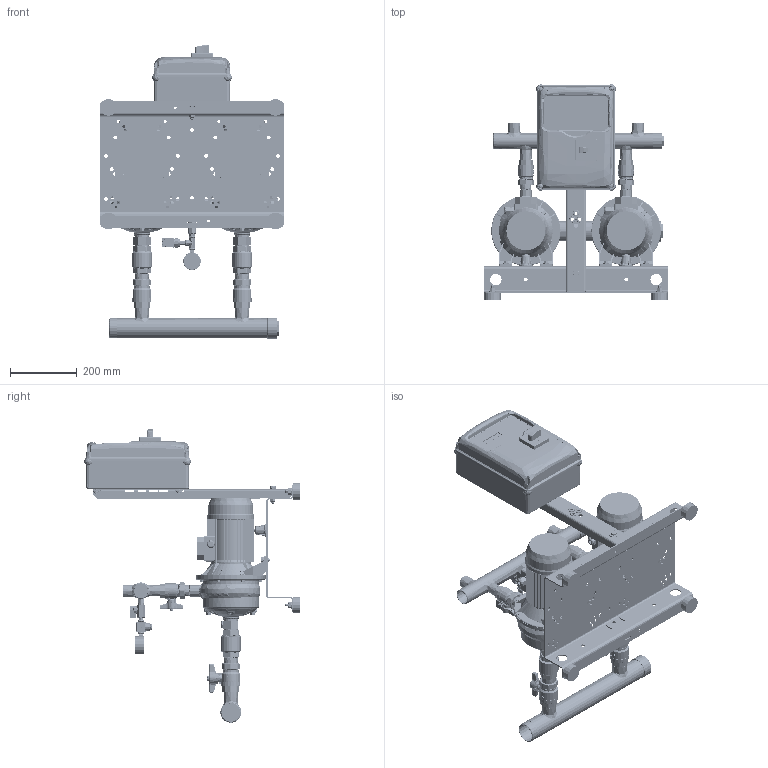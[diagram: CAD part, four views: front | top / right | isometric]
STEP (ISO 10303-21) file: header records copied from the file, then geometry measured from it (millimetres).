
FILE_DESCRIPTION((''),'2;1');
FILE_NAME('2GP_2CDX_70-12_REV5_ASM','2025-02-04T15:45:11',('Utente'),('"Ebara Pumps Europe S.p.A"'),'CREO PARAMETRIC BY PTC INC, 2022124','CREO PARAMETRIC BY PTC INC, 2022124','');
FILE_SCHEMA(('AUTOMOTIVE_DESIGN { 1 0 10303 214 1 1 1 1 }'));
Products named in the file (40): 62508_275562936; CALOTTA_F_A304_DN50_369800820; VAL_INT_MF-B_OTN_CIM346_DN32; VAL_INT_M-F-3_OTN_CIM346_DN32_ASM; VAL-NR-FF-OTN-CIM30-DN32; VAL_NR_F-F_OTN_CIM30_DN32_ASM; NIPPLO-ALIM_OT_DN32_361910051; TAPPO_M_OT_1-2_380000878; 3IEP_2CDX_70-12_IE3; EP_2CDX_70-12_ASM; VAL_INT_MF-B_OTN_CIM346_DN25; VAL_INT_M-F-3_OTN_CIM346_DN25_ASM; RONDEL-P_FE_ZN_UNI6592_M8; DADO_AUTOAGG_M8_ESAG; VITI_TE_ISO4017_M8_L20; 62510_275562939; CALOTTA_F_A304_DN40_369800819; TAPPO-SALVAFIL_D31; VAL_INT_MF_OTN_CIM012_DN8; NIPPLO_OTG_8_380000861; RACC-T_OTG_DN8_380000880; MAN_RAD_D50_10BAR_361600160; BASE_2GP_I300-B300_DNRV; MONTANTE_H600_271472877; PIEDINO_CIL_369650010; RONDEL-P_FE_ZN_UNI6592_M10; DADI_NORM_ISO4032_FE_ZN_M10; RONDEL-P_ZN_UNI6593_M10X30X2-5; VITI_TE_ISO4017_M10_L45; TRAVERSO_MONT_L200_271472882; RONDEL-P_FE_ZN_UNI6593_M6X18X2; RONDEL-P_FE_ZN_UNI6592_M6; VITI_TE_ISO4017_M6_L20; DADI_NORM_ISO4032_FE_ZN_M6; DADO_AUTOAGG_M10_ESAG; DNRV_2P_I300-B300_H600-Q220X300_ASM; COM_EP-PRO_2T_7-5_KW_362334215; PG_PVC_D10-5_380000891; TRASD_16BAR_460500024; 2GP_2CDX_70-12_REV5_ASM
Assembly tree (83 placements, depth 3):
  2GP_2CDX_70-12_REV5_ASM
    62508_275562936
    CALOTTA_F_A304_DN50_369800820
    VAL_INT_M-F-3_OTN_CIM346_DN32_ASM  x2
      VAL_INT_MF-B_OTN_CIM346_DN32
    VAL_NR_F-F_OTN_CIM30_DN32_ASM  x2
      VAL-NR-FF-OTN-CIM30-DN32
    NIPPLO-ALIM_OT_DN32_361910051  x2
    TAPPO_M_OT_1-2_380000878  x2
    EP_2CDX_70-12_ASM  x2
      3IEP_2CDX_70-12_IE3
    VAL_INT_M-F-3_OTN_CIM346_DN25_ASM  x2
      VAL_INT_MF-B_OTN_CIM346_DN25
    RONDEL-P_FE_ZN_UNI6592_M8  x4
    DADO_AUTOAGG_M8_ESAG  x4
    VITI_TE_ISO4017_M8_L20  x4
    62510_275562939
    CALOTTA_F_A304_DN40_369800819
    TAPPO-SALVAFIL_D31  x2
    VAL_INT_MF_OTN_CIM012_DN8
    NIPPLO_OTG_8_380000861
    RACC-T_OTG_DN8_380000880
    MAN_RAD_D50_10BAR_361600160
    DNRV_2P_I300-B300_H600-Q220X300_ASM
      BASE_2GP_I300-B300_DNRV
      MONTANTE_H600_271472877
      PIEDINO_CIL_369650010  x4
      RONDEL-P_FE_ZN_UNI6592_M10  x4
      DADI_NORM_ISO4032_FE_ZN_M10  x4
      RONDEL-P_ZN_UNI6593_M10X30X2-5
      VITI_TE_ISO4017_M10_L45
      TRAVERSO_MONT_L200_271472882  x2
      RONDEL-P_FE_ZN_UNI6593_M6X18X2  x8
      RONDEL-P_FE_ZN_UNI6592_M6  x4
      VITI_TE_ISO4017_M6_L20  x4
      DADI_NORM_ISO4032_FE_ZN_M6  x4
      DADO_AUTOAGG_M10_ESAG
    COM_EP-PRO_2T_7-5_KW_362334215
    PG_PVC_D10-5_380000891  x3
    TRASD_16BAR_460500024
Bounding box: 550 x 644.45 x 878.95 mm (x, y, z)
Volume: 2447888.2 mm3; surface area: 3390991.2 mm2
Topology: 1355 solids, 1492 shells, 21140 faces, 53687 edges, 35720 vertices
Faces by surface type: plane 14048, cylinder 3247, cone 1324, extrusion 943, bspline 869, torus 620, sphere 87, revolution 2
Entity records: 946379 total; most frequent: CARTESIAN_POINT 296950, ORIENTED_EDGE 79821, DIRECTION 74774, PRESENTATION_STYLE_ASSIGNMENT 52423, STYLED_ITEM 42924, EDGE_CURVE 40911, CURVE_STYLE 39756, VECTOR 30142
